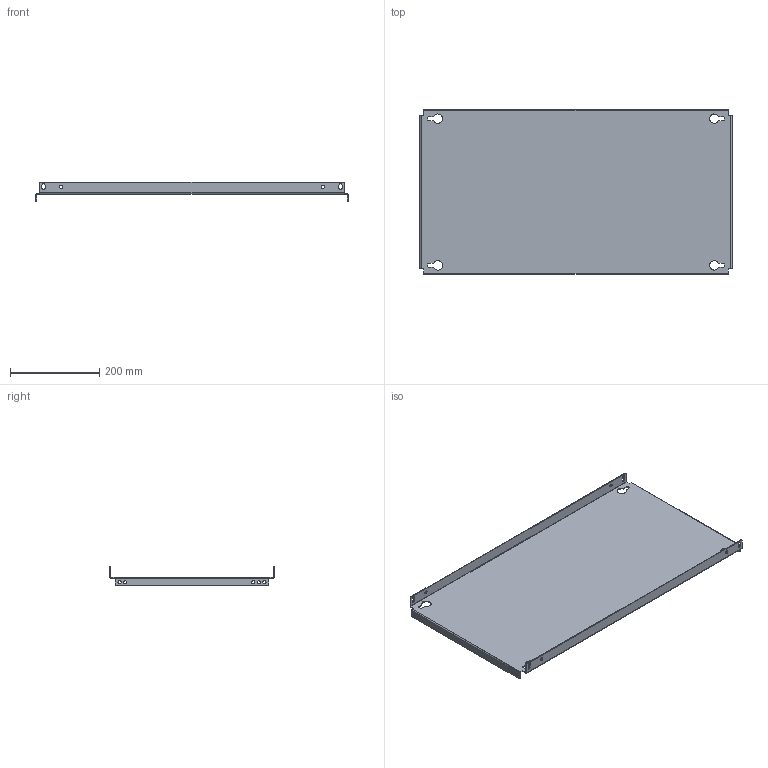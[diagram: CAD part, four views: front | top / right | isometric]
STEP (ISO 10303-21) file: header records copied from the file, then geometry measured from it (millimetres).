
FILE_DESCRIPTION (( 'STEP AP203' ), '1' );
FILE_NAME ('R5PPS4008.STEP', '2021-12-20T06:56:44', ( '' ), ( '' ), 'SwSTEP 2.0', 'SolidWorks 2020', '' );
FILE_SCHEMA (( 'CONFIG_CONTROL_DESIGN' ));
Length unit declared in the file: millimetre
Products named in the file (1): R5PPS4008
Bounding box: 700 x 369 x 43 mm (x, y, z)
Volume: 596760.5 mm3; surface area: 602951.4 mm2
Topology: 1 solids, 1 shells, 136 faces, 370 edges, 236 vertices
Faces by surface type: cylinder 78, plane 58
Entity records: 4479 total; most frequent: DIRECTION 800, CARTESIAN_POINT 743, ORIENTED_EDGE 740, EDGE_CURVE 370, AXIS2_PLACEMENT_3D 293, VERTEX_POINT 236, VECTOR 214, LINE 214
